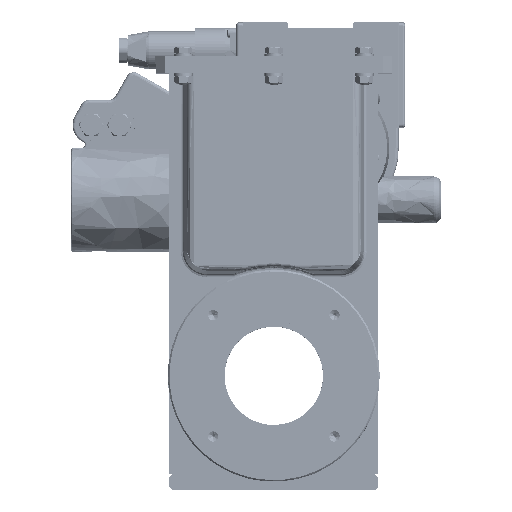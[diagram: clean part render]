
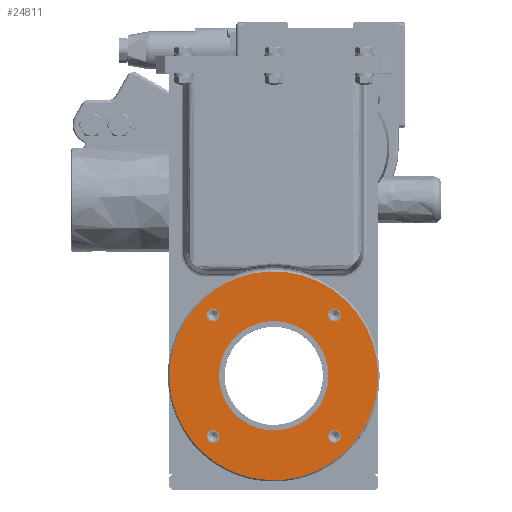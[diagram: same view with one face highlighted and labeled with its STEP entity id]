
A CAD part, top view. The second image highlights one B-rep face of the part: STEP entity #24811.
In plain terms, the highlighted free-form (B-spline) face has degree [1, 1] with [2, 2] control points.
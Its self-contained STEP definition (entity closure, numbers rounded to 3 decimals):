
#23874=CARTESIAN_POINT('V28',(34.892,0.,
   38.796));
#23875=VERTEX_POINT('V28',#23874);
#23883=CARTESIAN_POINT('E45',(34.892,0.,
   38.796));
#23884=CARTESIAN_POINT('E45',(35.056,0.,
   31.87));
#23885=CARTESIAN_POINT('E45',(40.972,0.,
   35.475));
#23886=CARTESIAN_POINT('E45',(46.889,0.,
   39.08));
#23887=CARTESIAN_POINT('E45',(40.808,0.,
   42.401));
#23888=CARTESIAN_POINT('E45',(34.728,0.,
   45.722));
#23889=CARTESIAN_POINT('E45',(34.892,0.,
   38.796));
#23897=(BOUNDED_CURVE()B_SPLINE_CURVE(2,(#23883,#23884,#23885,
   #23886,#23887,#23888,#23889),.CIRCULAR_ARC.,.T.,.U.)
   B_SPLINE_CURVE_WITH_KNOTS((3,2,2,3),(0.0,0.333,
   0.667,1.0),.UNSPECIFIED.)CURVE()
   GEOMETRIC_REPRESENTATION_ITEM()RATIONAL_B_SPLINE_CURVE((1.0,
   0.5,1.0,0.5,1.0,0.5,1.0)
   )REPRESENTATION_ITEM('E45'));
#23898=EDGE_CURVE('E45',#23875,#23875,#23897,.T.);
#24058=CARTESIAN_POINT('V27',(-38.796,0.,
   34.892));
#24059=VERTEX_POINT('V27',#24058);
#24067=CARTESIAN_POINT('E43',(-38.796,0.,
   34.892));
#24068=CARTESIAN_POINT('E43',(-31.87,0.,
   35.056));
#24069=CARTESIAN_POINT('E43',(-35.475,0.,
   40.972));
#24070=CARTESIAN_POINT('E43',(-39.08,0.,
   46.889));
#24071=CARTESIAN_POINT('E43',(-42.401,0.,
   40.808));
#24072=CARTESIAN_POINT('E43',(-45.722,0.,
   34.728));
#24073=CARTESIAN_POINT('E43',(-38.796,0.,
   34.892));
#24081=(BOUNDED_CURVE()B_SPLINE_CURVE(2,(#24067,#24068,#24069,
   #24070,#24071,#24072,#24073),.CIRCULAR_ARC.,.T.,.U.)
   B_SPLINE_CURVE_WITH_KNOTS((3,2,2,3),(0.0,0.333,
   0.667,1.0),.UNSPECIFIED.)CURVE()
   GEOMETRIC_REPRESENTATION_ITEM()RATIONAL_B_SPLINE_CURVE((1.0,
   0.5,1.0,0.5,1.0,0.5,1.0)
   )REPRESENTATION_ITEM('E43'));
#24082=EDGE_CURVE('E43',#24059,#24059,#24081,.T.);
#24242=CARTESIAN_POINT('V26',(-34.892,0.,
   -38.796));
#24243=VERTEX_POINT('V26',#24242);
#24251=CARTESIAN_POINT('E41',(-34.892,0.,
   -38.796));
#24252=CARTESIAN_POINT('E41',(-35.056,0.,
   -31.87));
#24253=CARTESIAN_POINT('E41',(-40.972,0.,
   -35.475));
#24254=CARTESIAN_POINT('E41',(-46.889,0.,
   -39.08));
#24255=CARTESIAN_POINT('E41',(-40.808,0.,
   -42.401));
#24256=CARTESIAN_POINT('E41',(-34.728,0.,
   -45.722));
#24257=CARTESIAN_POINT('E41',(-34.892,0.,
   -38.796));
#24265=(BOUNDED_CURVE()B_SPLINE_CURVE(2,(#24251,#24252,#24253,
   #24254,#24255,#24256,#24257),.CIRCULAR_ARC.,.T.,.U.)
   B_SPLINE_CURVE_WITH_KNOTS((3,2,2,3),(0.0,0.333,
   0.667,1.0),.UNSPECIFIED.)CURVE()
   GEOMETRIC_REPRESENTATION_ITEM()RATIONAL_B_SPLINE_CURVE((1.0,
   0.5,1.0,0.5,1.0,0.5,1.0)
   )REPRESENTATION_ITEM('E41'));
#24266=EDGE_CURVE('E41',#24243,#24243,#24265,.T.);
#24426=CARTESIAN_POINT('V25',(38.796,0.0,
   -34.892));
#24427=VERTEX_POINT('V25',#24426);
#24435=CARTESIAN_POINT('E39',(38.796,0.0,
   -34.892));
#24436=CARTESIAN_POINT('E39',(31.87,0.0,
   -35.056));
#24437=CARTESIAN_POINT('E39',(35.475,0.0,
   -40.972));
#24438=CARTESIAN_POINT('E39',(39.08,0.0,
   -46.889));
#24439=CARTESIAN_POINT('E39',(42.401,0.0,
   -40.808));
#24440=CARTESIAN_POINT('E39',(45.722,0.0,
   -34.728));
#24441=CARTESIAN_POINT('E39',(38.796,0.0,
   -34.892));
#24449=(BOUNDED_CURVE()B_SPLINE_CURVE(2,(#24435,#24436,#24437,
   #24438,#24439,#24440,#24441),.CIRCULAR_ARC.,.T.,.U.)
   B_SPLINE_CURVE_WITH_KNOTS((3,2,2,3),(0.0,0.333,
   0.667,1.0),.UNSPECIFIED.)CURVE()
   GEOMETRIC_REPRESENTATION_ITEM()RATIONAL_B_SPLINE_CURVE((1.0,
   0.5,1.0,0.5,1.0,0.5,1.0)
   )REPRESENTATION_ITEM('E39'));
#24450=EDGE_CURVE('E39',#24427,#24427,#24449,.T.);
#24479=CARTESIAN_POINT('V8',(35.047,0.0,0.0));
#24480=VERTEX_POINT('V8',#24479);
#24504=CARTESIAN_POINT('E12',(35.047,0.0,0.0));
#24505=CARTESIAN_POINT('E12',(35.047,0.0,
   -60.704));
#24506=CARTESIAN_POINT('E12',(-17.524,0.0,
   -30.352));
#24507=CARTESIAN_POINT('E12',(-70.095,0.0,0.)
   );
#24508=CARTESIAN_POINT('E12',(-17.524,0.0,
   30.352));
#24509=CARTESIAN_POINT('E12',(35.047,0.0,
   60.704));
#24510=CARTESIAN_POINT('E12',(35.047,0.0,0.0));
#24518=(BOUNDED_CURVE()B_SPLINE_CURVE(2,(#24504,#24505,#24506,
   #24507,#24508,#24509,#24510),.CIRCULAR_ARC.,.T.,.U.)
   B_SPLINE_CURVE_WITH_KNOTS((3,2,2,3),(0.0,40.469,
   80.939,121.408),.UNSPECIFIED.)CURVE()
   GEOMETRIC_REPRESENTATION_ITEM()RATIONAL_B_SPLINE_CURVE((1.0,
   0.5,1.0,0.5,1.0,0.5,1.0)
   )REPRESENTATION_ITEM('E12'));
#24519=EDGE_CURVE('E12',#24480,#24480,#24518,.T.);
#24759=CARTESIAN_POINT('V6',(66.9,0.0,0.0));
#24760=VERTEX_POINT('V6',#24759);
#24766=CARTESIAN_POINT('E10',(66.9,0.0,0.0));
#24767=CARTESIAN_POINT('E10',(66.9,0.0,
   -115.874));
#24768=CARTESIAN_POINT('E10',(-33.45,0.0,
   -57.937));
#24769=CARTESIAN_POINT('E10',(-133.8,0.0,
   0.));
#24770=CARTESIAN_POINT('E10',(-33.45,0.0,
   57.937));
#24771=CARTESIAN_POINT('E10',(66.9,0.0,
   115.874));
#24772=CARTESIAN_POINT('E10',(66.9,0.0,0.0));
#24780=(BOUNDED_CURVE()B_SPLINE_CURVE(2,(#24766,#24767,#24768,
   #24769,#24770,#24771,#24772),.CIRCULAR_ARC.,.T.,.U.)
   B_SPLINE_CURVE_WITH_KNOTS((3,2,2,3),(0.0,0.333,
   0.667,1.0),.UNSPECIFIED.)CURVE()
   GEOMETRIC_REPRESENTATION_ITEM()RATIONAL_B_SPLINE_CURVE((1.0,
   0.5,1.0,0.5,1.0,0.5,1.0)
   )REPRESENTATION_ITEM('E10'));
#24781=EDGE_CURVE('E10',#24760,#24760,#24780,.T.);
#24788=CARTESIAN_POINT('F24',(-73.59,0.0,
   -73.59));
#24789=CARTESIAN_POINT('F24',(-73.59,0.0,
   73.59));
#24790=CARTESIAN_POINT('F24',(73.59,0.0,
   -73.59));
#24791=CARTESIAN_POINT('F24',(73.59,0.0,
   73.59));
#24792=QUASI_UNIFORM_SURFACE('F24',1,1,((#24788,#24790),(#24789,
   #24791)),.PLANE_SURF.,.F.,.F.,.U.);
#24793=ORIENTED_EDGE('E10',*,*,#24781,.F.);
#24794=EDGE_LOOP('F24',(#24793));
#24795=FACE_OUTER_BOUND('F24',#24794,.F.);
#24796=ORIENTED_EDGE('F20',*,*,#24450,.F.);
#24797=EDGE_LOOP('F24',(#24796));
#24798=FACE_BOUND('F24',#24797,.F.);
#24799=ORIENTED_EDGE('F21',*,*,#24266,.F.);
#24800=EDGE_LOOP('F24',(#24799));
#24801=FACE_BOUND('F24',#24800,.F.);
#24802=ORIENTED_EDGE('F22',*,*,#24082,.F.);
#24803=EDGE_LOOP('F24',(#24802));
#24804=FACE_BOUND('F24',#24803,.F.);
#24805=ORIENTED_EDGE('F23',*,*,#23898,.F.);
#24806=EDGE_LOOP('F24',(#24805));
#24807=FACE_BOUND('F24',#24806,.F.);
#24808=ORIENTED_EDGE('F6',*,*,#24519,.T.);
#24809=EDGE_LOOP('F24',(#24808));
#24810=FACE_BOUND('F24',#24809,.F.);
#24811=ADVANCED_FACE('F24',(#24795,#24798,#24801,#24804,#24807,
   #24810),#24792,.T.);
